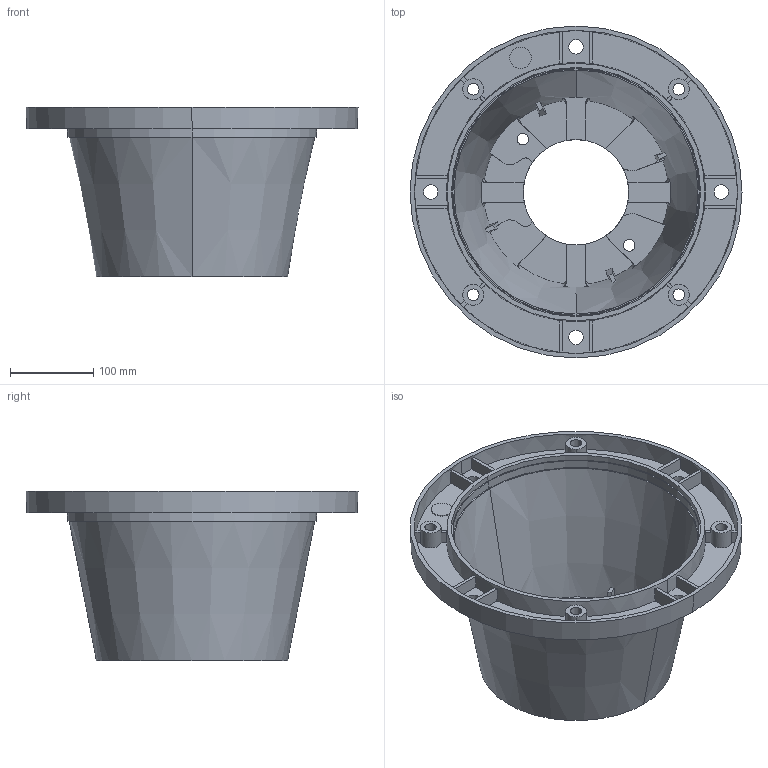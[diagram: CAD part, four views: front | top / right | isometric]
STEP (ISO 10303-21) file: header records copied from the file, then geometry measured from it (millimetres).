
FILE_DESCRIPTION((''),'2;1');
FILE_NAME('104026040700_INT','2023-01-09T14:15:56',('w.rathmann'),(''),'CREO PARAMETRIC BY PTC INC, 2022124','CREO PARAMETRIC BY PTC INC, 2022124','');
FILE_SCHEMA(('CONFIG_CONTROL_DESIGN'));
Length unit declared in the file: millimetre
Products named in the file (1): 104026040700_INT
Bounding box: 399.93 x 399.93 x 204 mm (x, y, z)
Volume: 1587413.8 mm3; surface area: 601627.3 mm2
Topology: 1 solids, 1 shells, 245 faces, 707 edges, 488 vertices
Faces by surface type: plane 175, cylinder 46, cone 12, bspline 12
Entity records: 8487 total; most frequent: CARTESIAN_POINT 1995, ORIENTED_EDGE 1386, DIRECTION 1299, EDGE_CURVE 693, VERTEX_POINT 460, AXIS2_PLACEMENT_3D 453, VECTOR 393, LINE 393
